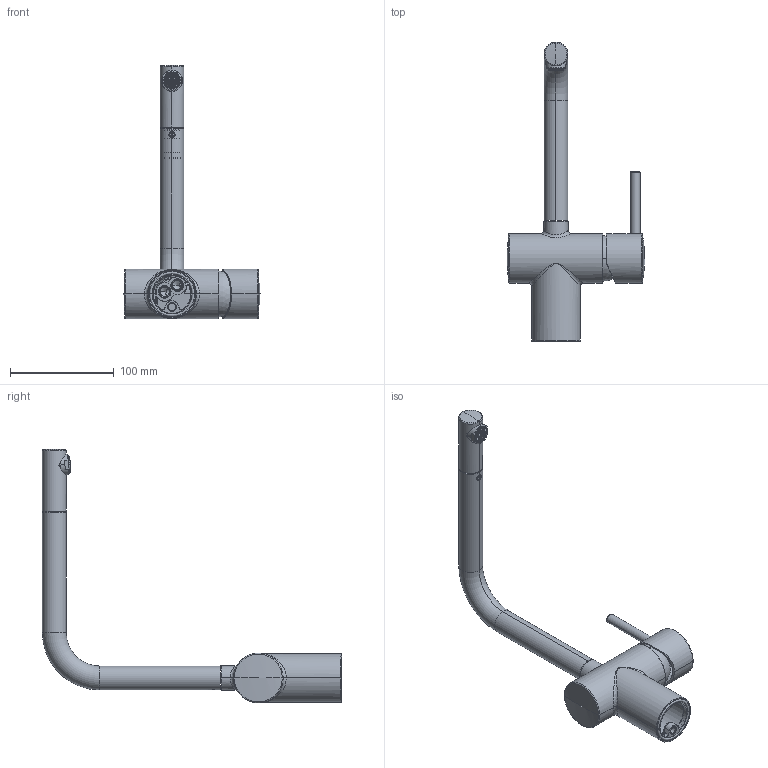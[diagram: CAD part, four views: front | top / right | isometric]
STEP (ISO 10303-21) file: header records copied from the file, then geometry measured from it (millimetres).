
FILE_DESCRIPTION((''),'2;1');
FILE_NAME('18090--00_SUB01_ASM','2022-05-11T09:58:49',('sosm1'),(''),'CREO PARAMETRIC BY PTC INC, 2018190','CREO PARAMETRIC BY PTC INC, 2018190','');
FILE_SCHEMA(('CONFIG_CONTROL_DESIGN'));
Length unit declared in the file: millimetre
Products named in the file (21): 44579--; 42061--; 44533--; 44535--; 44534--_ASM; 42347--; 4230785; 42307--_ASM; 44585--; 6925300; 42298--; 4455700; 4124500; 44585--_SUB01_ASM; 44679--; 4467700; 4468000; 44675--_ASM; 44586--_ASM; 4190300; 18090--00_SUB01_ASM
Assembly tree (20 placements, depth 4):
  18090--00_SUB01_ASM
    44579--
    42061--
    44534--_ASM
      44533--
      44535--
    42347--
    44586--_ASM
      42307--_ASM
        4230785
      44585--_SUB01_ASM
        44585--
        6925300
        42298--
        4455700
        4124500
      44675--_ASM
        44679--
        4467700
        4468000
    4190300
Bounding box: 132.6 x 288.82 x 244.78 mm (x, y, z)
Volume: 149725.4 mm3; surface area: 137020.6 mm2
Topology: 16 solids, 16 shells, 1749 faces, 4759 edges, 2935 vertices
Faces by surface type: plane 811, cylinder 377, bspline 244, torus 125, cone 113, sphere 79
Entity records: 70264 total; most frequent: CARTESIAN_POINT 26425, ORIENTED_EDGE 9462, DIRECTION 9160, EDGE_CURVE 4731, AXIS2_PLACEMENT_3D 3599, VERTEX_POINT 2935, CIRCLE 2039, VECTOR 1962
